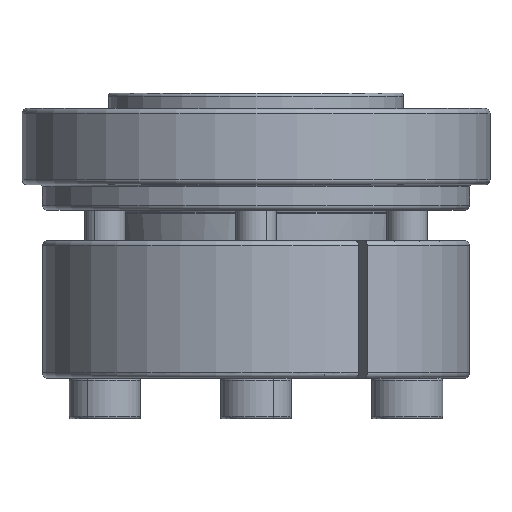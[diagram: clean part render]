
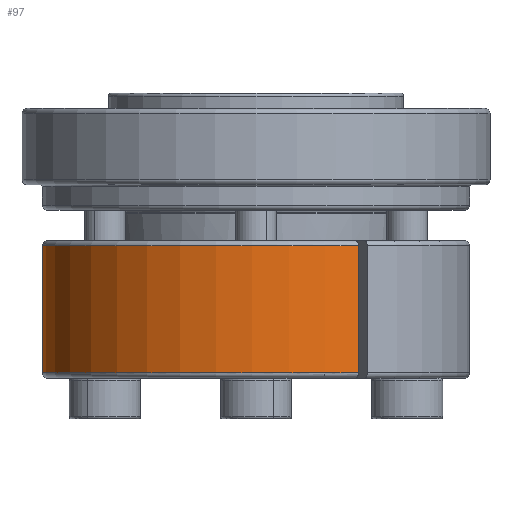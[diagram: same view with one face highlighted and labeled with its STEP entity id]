
A CAD part, front view. The second image highlights one B-rep face of the part: STEP entity #97.
In plain terms, the highlighted cylindrical face has radius 21 mm (diameter 42 mm), a partial arc.
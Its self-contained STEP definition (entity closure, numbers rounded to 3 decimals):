
#97 = ADVANCED_FACE ( 'NONE', ( #1287 ), #1295, .T. ) ;
#595 = ORIENTED_EDGE ( 'NONE', *, *, #1728, .F. ) ;
#865 = CARTESIAN_POINT ( 'NONE',  ( 0., 0., 15. ) ) ;
#867 = DIRECTION ( 'NONE',  ( 0., 0., 1. ) ) ;
#869 = DIRECTION ( 'NONE',  ( 1., 0., 0. ) ) ;
#936 = VERTEX_POINT ( 'NONE', #6857 ) ;
#954 = VERTEX_POINT ( 'NONE', #6875 ) ;
#1139 = VERTEX_POINT ( 'NONE', #4782 ) ;
#1164 = VERTEX_POINT ( 'NONE', #4807 ) ;
#1287 = FACE_OUTER_BOUND ( 'NONE', #3701, .T. ) ;
#1295 = CYLINDRICAL_SURFACE ( 'NONE', #5300, 21. ) ;
#1383 = LINE ( 'NONE', #5207, #1390 ) ;
#1390 = VECTOR ( 'NONE', #5213, 1000. ) ;
#1728 = EDGE_CURVE ( 'NONE', #1164, #936, #1383, .T. ) ;
#2112 = AXIS2_PLACEMENT_3D ( 'NONE', #3442, #3443, #3444 ) ;
#2143 = AXIS2_PLACEMENT_3D ( 'NONE', #2685, #2686, #2687 ) ;
#2640 = CARTESIAN_POINT ( 'NONE',  ( 10.064, -18.431, 15. ) ) ;
#2641 = DIRECTION ( 'NONE',  ( 0., 0., 1. ) ) ;
#2685 = CARTESIAN_POINT ( 'NONE',  ( 0., 0., 0.5 ) ) ;
#2686 = DIRECTION ( 'NONE',  ( 0., 0., 1. ) ) ;
#2687 = DIRECTION ( 'NONE',  ( 1., 0., 0. ) ) ;
#3108 = EDGE_CURVE ( 'NONE', #936, #954, #8413, .T. ) ;
#3146 = EDGE_CURVE ( 'NONE', #1139, #954, #8453, .T. ) ;
#3160 = EDGE_CURVE ( 'NONE', #1164, #1139, #8469, .T. ) ;
#3442 = CARTESIAN_POINT ( 'NONE',  ( 0., 0., 13. ) ) ;
#3443 = DIRECTION ( 'NONE',  ( 0., 0., 1. ) ) ;
#3444 = DIRECTION ( 'NONE',  ( 1., 0., 0. ) ) ;
#3701 = EDGE_LOOP ( 'NONE', ( #595, #6614, #6635, #6593 ) ) ;
#4782 = CARTESIAN_POINT ( 'NONE',  ( 10.064, -18.431, 0.5 ) ) ;
#4807 = CARTESIAN_POINT ( 'NONE',  ( -21., 0., 0.5 ) ) ;
#5207 = CARTESIAN_POINT ( 'NONE',  ( -21., 0., 15. ) ) ;
#5213 = DIRECTION ( 'NONE',  ( 0., 0., 1. ) ) ;
#5300 = AXIS2_PLACEMENT_3D ( 'NONE', #865, #867, #869 ) ;
#6593 = ORIENTED_EDGE ( 'NONE', *, *, #3108, .F. ) ;
#6614 = ORIENTED_EDGE ( 'NONE', *, *, #3160, .T. ) ;
#6635 = ORIENTED_EDGE ( 'NONE', *, *, #3146, .T. ) ;
#6857 = CARTESIAN_POINT ( 'NONE',  ( -21., 0., 13. ) ) ;
#6875 = CARTESIAN_POINT ( 'NONE',  ( 10.064, -18.431, 13. ) ) ;
#8413 = CIRCLE ( 'NONE', #2112, 21. ) ;
#8453 = LINE ( 'NONE', #2640, #8456 ) ;
#8456 = VECTOR ( 'NONE', #2641, 1000. ) ;
#8469 = CIRCLE ( 'NONE', #2143, 21. ) ;
